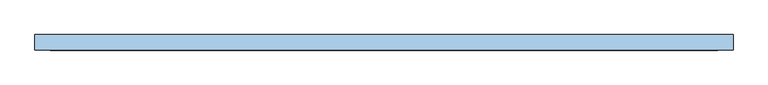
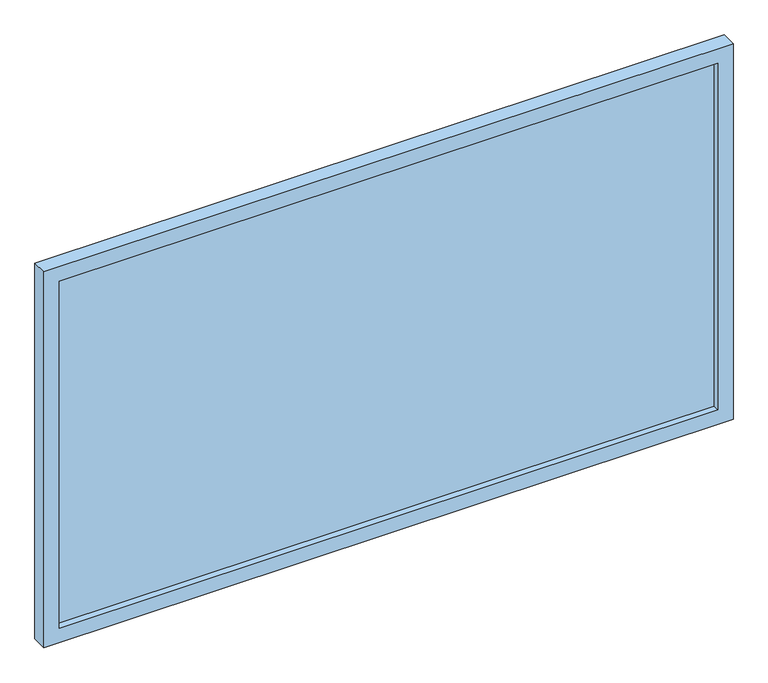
"""IFC4 building model written with IfcOpenShell, lengths in millimetres: window geometry, 固定窗-矩形- (1) : 269 * 155 cm."""

from ifc_helpers import new_model, si_unit, frame, origin, place, context, project, spatial, polyline, outline, extrude, source, transform, mapped, element, save


def window_445307ba(model_context):
    return source(origin(), model_context, "Body", "SweptSolid", [
        extrude(outline(polyline([(2550.0, 1345.0), (2550.0, -1345.0), (1000.0, -1345.0), (1000.0, 1345.0), (2550.0, 1345.0)]), holes=[polyline([(2490.0, 1285.0), (1060.0, 1285.0), (1060.0, -1285.0), (2490.0, -1285.0), (2490.0, 1285.0)])]), frame((0.0, -60.0, 0.0), z_axis=(0.0, 1.0, 0.0), x_axis=(0.0, 0.0, 1.0)), (0.0, 0.0, 1.0), 60.0),
        extrude(outline(polyline([(-1285.0, -25.0), (1285.0, -25.0), (1285.0, -35.0), (-1285.0, -35.0), (-1285.0, -25.0)])), frame((0.0, 0.0, 1060.0), z_axis=(0.0, 0.0, 1.0), x_axis=(1.0, 0.0, 0.0)), (0.0, 0.0, 1.0), 1430.0),
    ])


if __name__ == "__main__":
    model = new_model("IFC4")
    model_context = context("Model", 3, world=origin())
    ifc_project = project(units=[si_unit("LENGTHUNIT", "METRE", prefix="MILLI")], contexts=[model_context])
    site = spatial("IfcSite", under=ifc_project)
    building = spatial("IfcBuilding", under=site)
    placement = place(None, origin())
    window_shape = window_445307ba(model_context)
    element("IfcWindow", 1, ObjectType="固定窗-矩形- (1) : 269 * 155 cm", at=placement, inside=building, context=model_context, shape_type="MappedRepresentation", body=[
        mapped(window_shape, transform((0.0, 0.0, 0.0), x_axis=(1.0, 0.0, 0.0), y_axis=(0.0, 1.0, 0.0), z_axis=(0.0, 0.0, 1.0))),
    ])
    save(model, "model.ifc")
